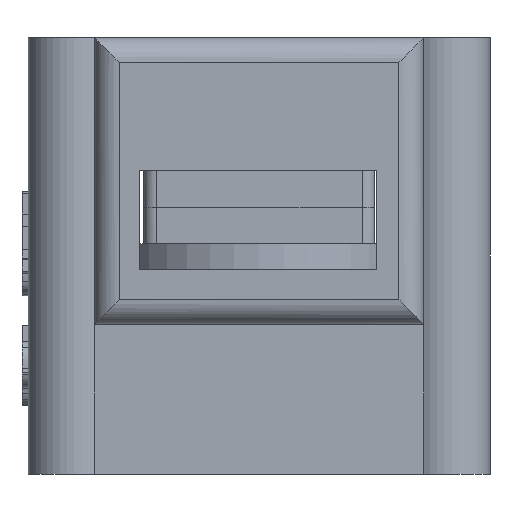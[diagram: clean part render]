
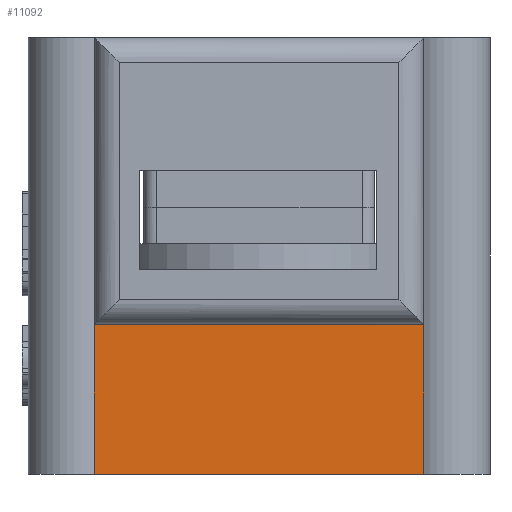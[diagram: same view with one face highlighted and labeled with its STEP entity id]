
A CAD part, left-side view. The second image highlights one B-rep face of the part: STEP entity #11092.
In plain terms, the highlighted planar face has unit normal (-1, 0, 0).
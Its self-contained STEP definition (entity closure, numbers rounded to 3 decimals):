
#402=PLANE('',#11672);
#1640=FACE_OUTER_BOUND('',#2314,.T.);
#2314=EDGE_LOOP('',(#10395,#10396,#10397,#10398));
#3057=LINE('',#19923,#4064);
#3146=LINE('',#20145,#4153);
#3322=LINE('',#20750,#4329);
#3323=LINE('',#20752,#4330);
#4064=VECTOR('',#13057,10.);
#4153=VECTOR('',#13274,10.);
#4329=VECTOR('',#13832,10.);
#4330=VECTOR('',#13835,10.);
#5369=VERTEX_POINT('',#19907);
#5376=VERTEX_POINT('',#19921);
#5442=VERTEX_POINT('',#20129);
#5445=VERTEX_POINT('',#20141);
#6825=EDGE_CURVE('',#5376,#5369,#3057,.T.);
#6937=EDGE_CURVE('',#5445,#5442,#3146,.T.);
#7173=EDGE_CURVE('',#5376,#5442,#3322,.T.);
#7174=EDGE_CURVE('',#5369,#5445,#3323,.T.);
#10395=ORIENTED_EDGE('',*,*,#7173,.T.);
#10396=ORIENTED_EDGE('',*,*,#6937,.F.);
#10397=ORIENTED_EDGE('',*,*,#7174,.F.);
#10398=ORIENTED_EDGE('',*,*,#6825,.F.);
#11092=ADVANCED_FACE('',(#1640),#402,.T.);
#11672=AXIS2_PLACEMENT_3D('',#20751,#13833,#13834);
#13057=DIRECTION('',(0.,1.,0.));
#13274=DIRECTION('',(0.,-1.,0.));
#13832=DIRECTION('',(0.,0.,1.));
#13833=DIRECTION('center_axis',(-1.,0.,
0.));
#13834=DIRECTION('ref_axis',(0.,-1.,0.));
#13835=DIRECTION('',(0.,0.,1.));
#19907=CARTESIAN_POINT('',(-27.969,21.11,-12.));
#19921=CARTESIAN_POINT('',(-27.969,-5.284,-12.));
#19923=CARTESIAN_POINT('',(-27.969,22.934,-12.));
#20129=CARTESIAN_POINT('',(-27.969,-5.284,0.));
#20141=CARTESIAN_POINT('',(-27.969,21.11,0.));
#20145=CARTESIAN_POINT('',(-27.969,22.934,0.));
#20750=CARTESIAN_POINT('',(-27.969,-5.284,-2.));
#20751=CARTESIAN_POINT('Origin',(-27.969,21.11,-2.));
#20752=CARTESIAN_POINT('',(-27.969,21.11,-2.));
